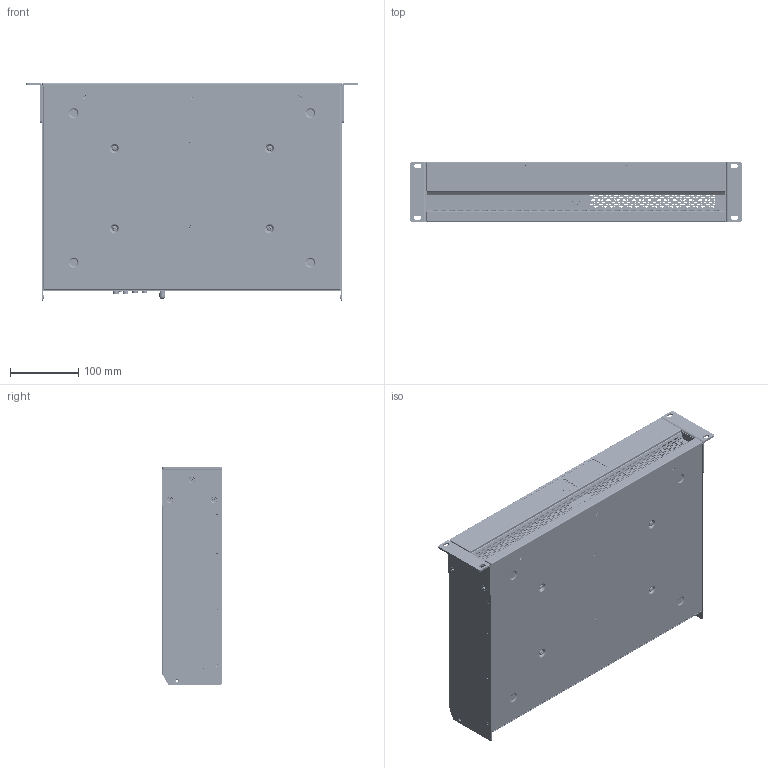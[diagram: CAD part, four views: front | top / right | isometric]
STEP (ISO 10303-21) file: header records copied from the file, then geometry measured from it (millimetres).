
FILE_DESCRIPTION (( 'STEP AP214' ), '1' );
FILE_NAME ('Sonance PowerZone Connect PRO 2000.2.STEP', '2026-06-01T19:25:06', ( '' ), ( '' ), 'SwSTEP 2.0', 'SolidWorks 2025', '' );
FILE_SCHEMA (( 'AUTOMOTIVE_DESIGN' ));
Length unit declared in the file: millimetre
Products named in the file (1): Sonance PowerZone Connect PRO 2000.2
Bounding box: 488 x 88.05 x 320 mm (x, y, z)
Volume: 593185.2 mm3; surface area: 948512.5 mm2
Topology: 167 solids, 167 shells, 11784 faces, 30280 edges, 19258 vertices
Faces by surface type: plane 6148, cylinder 3405, cone 1549, torus 373, bspline 244, sphere 65
Entity records: 373374 total; most frequent: CARTESIAN_POINT 78840, DIRECTION 60749, ORIENTED_EDGE 60256, EDGE_CURVE 30128, AXIS2_PLACEMENT_3D 20514, VECTOR 19721, LINE 19721, VERTEX_POINT 19251
